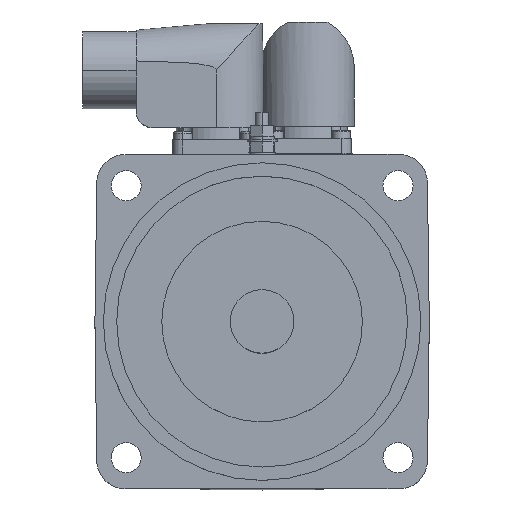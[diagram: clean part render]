
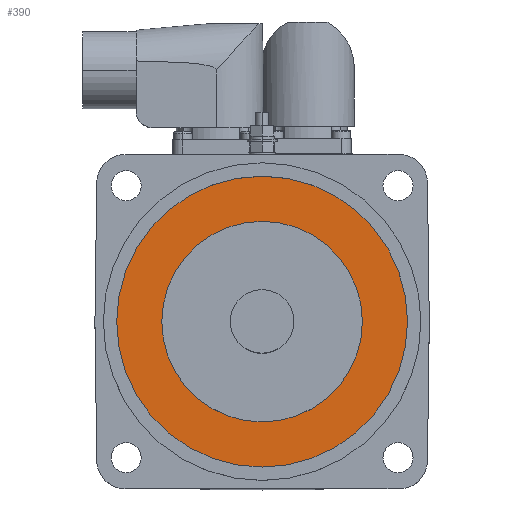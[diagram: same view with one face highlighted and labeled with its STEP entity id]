
A CAD part, top view. The second image highlights one B-rep face of the part: STEP entity #390.
In plain terms, the highlighted planar face has unit normal (0, 0, 1).
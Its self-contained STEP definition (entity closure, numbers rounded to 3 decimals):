
#390 = ADVANCED_FACE ( 'NONE', ( #2732, #2737 ), #8793, .T. ) ;
#625 = AXIS2_PLACEMENT_3D ( 'NONE', #1241, #1240, #1239 ) ;
#630 = AXIS2_PLACEMENT_3D ( 'NONE', #1311, #1309, #1308 ) ;
#697 = AXIS2_PLACEMENT_3D ( 'NONE', #4818, #4835, #4836 ) ;
#699 = AXIS2_PLACEMENT_3D ( 'NONE', #4821, #4824, #4825 ) ;
#1239 = DIRECTION ( 'NONE',  ( 1., 0., 0. ) ) ;
#1240 = DIRECTION ( 'NONE',  ( 0., 0., 1. ) ) ;
#1241 = CARTESIAN_POINT ( 'NONE',  ( 0., 0., 8. ) ) ;
#1308 = DIRECTION ( 'NONE',  ( 1., 0., 0. ) ) ;
#1309 = DIRECTION ( 'NONE',  ( 0., 0., 1. ) ) ;
#1311 = CARTESIAN_POINT ( 'NONE',  ( 0., 0., 8. ) ) ;
#1670 = CARTESIAN_POINT ( 'NONE',  ( 43.5, 0., 8. ) ) ;
#2732 = FACE_OUTER_BOUND ( 'NONE', #3813, .T. ) ;
#2737 = FACE_BOUND ( 'NONE', #3797, .T. ) ;
#3797 = EDGE_LOOP ( 'NONE', ( #11085, #11087 ) ) ;
#3813 = EDGE_LOOP ( 'NONE', ( #11082, #11084 ) ) ;
#4818 = CARTESIAN_POINT ( 'NONE',  ( 0., 0., 8. ) ) ;
#4821 = CARTESIAN_POINT ( 'NONE',  ( 0., 0., 8. ) ) ;
#4824 = DIRECTION ( 'NONE',  ( 0., 0., 1. ) ) ;
#4825 = DIRECTION ( 'NONE',  ( 1., 0., 0. ) ) ;
#4835 = DIRECTION ( 'NONE',  ( 0., 0., 1. ) ) ;
#4836 = DIRECTION ( 'NONE',  ( 1., 0., 0. ) ) ;
#6440 = AXIS2_PLACEMENT_3D ( 'NONE', #8801, #8809, #8735 ) ;
#7217 = CARTESIAN_POINT ( 'NONE',  ( -43.5, 0., 8. ) ) ;
#7613 = CARTESIAN_POINT ( 'NONE',  ( -30., 0., 8. ) ) ;
#7921 = CARTESIAN_POINT ( 'NONE',  ( 30., 0., 8. ) ) ;
#8735 = DIRECTION ( 'NONE',  ( 1., 0., 0. ) ) ;
#8793 = PLANE ( 'NONE',  #6440 ) ;
#8801 = CARTESIAN_POINT ( 'NONE',  ( 0., 43.5, 8. ) ) ;
#8809 = DIRECTION ( 'NONE',  ( 0., 0., 1. ) ) ;
#9325 = EDGE_CURVE ( 'NONE', #12786, #14158, #13295, .T. ) ;
#9329 = EDGE_CURVE ( 'NONE', #12843, #14212, #13302, .T. ) ;
#9627 = EDGE_CURVE ( 'NONE', #14212, #12843, #13550, .T. ) ;
#9629 = EDGE_CURVE ( 'NONE', #14158, #12786, #13553, .T. ) ;
#11082 = ORIENTED_EDGE ( 'NONE', *, *, #9627, .T. ) ;
#11084 = ORIENTED_EDGE ( 'NONE', *, *, #9329, .T. ) ;
#11085 = ORIENTED_EDGE ( 'NONE', *, *, #9325, .F. ) ;
#11087 = ORIENTED_EDGE ( 'NONE', *, *, #9629, .F. ) ;
#12786 = VERTEX_POINT ( 'NONE', #7921 ) ;
#12843 = VERTEX_POINT ( 'NONE', #7217 ) ;
#13295 = CIRCLE ( 'NONE', #625, 30. ) ;
#13302 = CIRCLE ( 'NONE', #630, 43.5 ) ;
#13550 = CIRCLE ( 'NONE', #697, 43.5 ) ;
#13553 = CIRCLE ( 'NONE', #699, 30. ) ;
#14158 = VERTEX_POINT ( 'NONE', #7613 ) ;
#14212 = VERTEX_POINT ( 'NONE', #1670 ) ;
